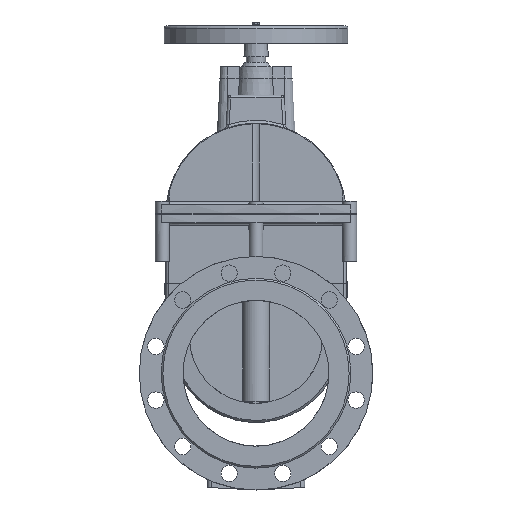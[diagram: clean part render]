
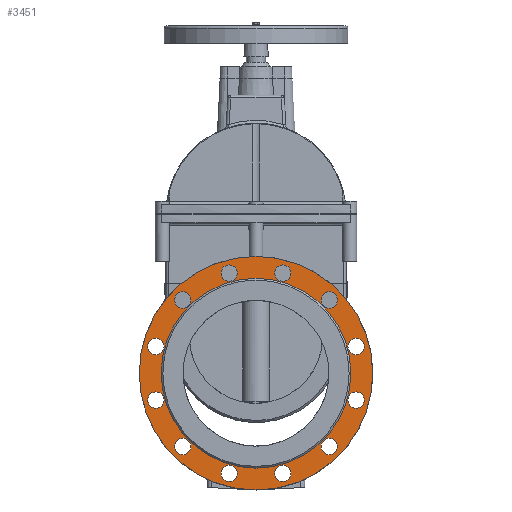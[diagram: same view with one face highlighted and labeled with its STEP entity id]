
A CAD part, left-side view. The second image highlights one B-rep face of the part: STEP entity #3451.
In plain terms, the highlighted planar face has unit normal (-1, 0, 0).
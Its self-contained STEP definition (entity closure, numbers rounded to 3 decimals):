
#3451=ADVANCED_FACE('',(#8669,#8671,#8673,#8675,#8677,#8679,#8681,#8683,#8685,#8687,
#8689,#8691,#8693,#8695),#8697,.F.);
#8669=FACE_BOUND('',#8670,.T.);
#8670=EDGE_LOOP('',(#18102));
#8671=FACE_BOUND('',#8672,.T.);
#8672=EDGE_LOOP('',(#18103));
#8673=FACE_BOUND('',#8674,.T.);
#8674=EDGE_LOOP('',(#18104));
#8675=FACE_BOUND('',#8676,.T.);
#8676=EDGE_LOOP('',(#18105));
#8677=FACE_BOUND('',#8678,.T.);
#8678=EDGE_LOOP('',(#18106));
#8679=FACE_BOUND('',#8680,.T.);
#8680=EDGE_LOOP('',(#18107));
#8681=FACE_BOUND('',#8682,.T.);
#8682=EDGE_LOOP('',(#18108));
#8683=FACE_BOUND('',#8684,.T.);
#8684=EDGE_LOOP('',(#18109));
#8685=FACE_BOUND('',#8686,.T.);
#8686=EDGE_LOOP('',(#18110));
#8687=FACE_BOUND('',#8688,.T.);
#8688=EDGE_LOOP('',(#18111));
#8689=FACE_BOUND('',#8690,.T.);
#8690=EDGE_LOOP('',(#18112));
#8691=FACE_BOUND('',#8692,.T.);
#8692=EDGE_LOOP('',(#18113));
#8693=FACE_BOUND('',#8694,.T.);
#8694=EDGE_LOOP('',(#18114));
#8695=FACE_BOUND('',#8696,.T.);
#8696=EDGE_LOOP('',(#18115));
#8697=PLANE('',#8698);
#8698=AXIS2_PLACEMENT_3D('',#8699,#8700,#8701);
#8699=CARTESIAN_POINT('',(-222.,0.,0.));
#8700=DIRECTION('',(1.,0.,0.));
#8701=DIRECTION('',(0.,1.,0.));
#18102=ORIENTED_EDGE('',*,*,#20849,.F.);
#18103=ORIENTED_EDGE('',*,*,#20869,.T.);
#18104=ORIENTED_EDGE('',*,*,#20868,.T.);
#18105=ORIENTED_EDGE('',*,*,#20867,.T.);
#18106=ORIENTED_EDGE('',*,*,#20866,.T.);
#18107=ORIENTED_EDGE('',*,*,#20865,.T.);
#18108=ORIENTED_EDGE('',*,*,#20864,.T.);
#18109=ORIENTED_EDGE('',*,*,#20863,.T.);
#18110=ORIENTED_EDGE('',*,*,#20862,.T.);
#18111=ORIENTED_EDGE('',*,*,#20861,.T.);
#18112=ORIENTED_EDGE('',*,*,#20860,.T.);
#18113=ORIENTED_EDGE('',*,*,#20859,.T.);
#18114=ORIENTED_EDGE('',*,*,#20991,.F.);
#18115=ORIENTED_EDGE('',*,*,#20858,.T.);
#20849=EDGE_CURVE('',#23590,#23590,#23591,.T.);
#20858=EDGE_CURVE('',#23602,#23602,#23603,.T.);
#20859=EDGE_CURVE('',#23604,#23604,#23605,.T.);
#20860=EDGE_CURVE('',#23606,#23606,#23607,.T.);
#20861=EDGE_CURVE('',#23608,#23608,#23609,.T.);
#20862=EDGE_CURVE('',#23610,#23610,#23611,.T.);
#20863=EDGE_CURVE('',#23612,#23612,#23613,.T.);
#20864=EDGE_CURVE('',#23614,#23614,#23615,.T.);
#20865=EDGE_CURVE('',#23616,#23616,#23617,.T.);
#20866=EDGE_CURVE('',#23618,#23618,#23619,.T.);
#20867=EDGE_CURVE('',#23620,#23620,#23621,.T.);
#20868=EDGE_CURVE('',#23622,#23622,#23623,.T.);
#20869=EDGE_CURVE('',#23624,#23624,#23625,.T.);
#20991=EDGE_CURVE('',#23814,#23814,#23815,.T.);
#23590=VERTEX_POINT('',#32469);
#23591=CIRCLE('',#32470,200.);
#23602=VERTEX_POINT('',#32504);
#23603=CIRCLE('',#32505,14.);
#23604=VERTEX_POINT('',#32509);
#23605=CIRCLE('',#32510,14.);
#23606=VERTEX_POINT('',#32514);
#23607=CIRCLE('',#32515,14.);
#23608=VERTEX_POINT('',#32519);
#23609=CIRCLE('',#32520,14.);
#23610=VERTEX_POINT('',#32524);
#23611=CIRCLE('',#32525,14.);
#23612=VERTEX_POINT('',#32529);
#23613=CIRCLE('',#32530,14.);
#23614=VERTEX_POINT('',#32534);
#23615=CIRCLE('',#32535,14.);
#23616=VERTEX_POINT('',#32539);
#23617=CIRCLE('',#32540,14.);
#23618=VERTEX_POINT('',#32544);
#23619=CIRCLE('',#32545,14.);
#23620=VERTEX_POINT('',#32549);
#23621=CIRCLE('',#32550,14.);
#23622=VERTEX_POINT('',#32554);
#23623=CIRCLE('',#32555,14.);
#23624=VERTEX_POINT('',#32559);
#23625=CIRCLE('',#32560,14.);
#23814=VERTEX_POINT('',#33162);
#23815=CIRCLE('',#33163,162.5);
#32469=CARTESIAN_POINT('',(-222.,200.,0.));
#32470=AXIS2_PLACEMENT_3D('',#32471,#32472,#32473);
#32471=CARTESIAN_POINT('',(-222.,0.,0.));
#32472=DIRECTION('',(1.,0.,0.));
#32473=DIRECTION('',(0.,1.,0.));
#32504=CARTESIAN_POINT('',(-222.,185.452,45.94));
#32505=AXIS2_PLACEMENT_3D('',#32506,#32507,#32508);
#32506=CARTESIAN_POINT('',(-222.,171.452,45.94));
#32507=DIRECTION('',(1.,0.,0.));
#32508=DIRECTION('',(0.,1.,0.));
#32509=CARTESIAN_POINT('',(-222.,183.576,-52.94));
#32510=AXIS2_PLACEMENT_3D('',#32511,#32512,#32513);
#32511=CARTESIAN_POINT('',(-222.,171.452,-45.94));
#32512=DIRECTION('',(1.,0.,0.));
#32513=DIRECTION('',(0.,0.866,-0.5));
#32514=CARTESIAN_POINT('',(-222.,132.511,-137.636));
#32515=AXIS2_PLACEMENT_3D('',#32516,#32517,#32518);
#32516=CARTESIAN_POINT('',(-222.,125.511,-125.511));
#32517=DIRECTION('',(1.,0.,0.));
#32518=DIRECTION('',(0.,0.5,-0.866));
#32519=CARTESIAN_POINT('',(-222.,45.94,-185.452));
#32520=AXIS2_PLACEMENT_3D('',#32521,#32522,#32523);
#32521=CARTESIAN_POINT('',(-222.,45.94,-171.452));
#32522=DIRECTION('',(1.,0.,0.));
#32523=DIRECTION('',(0.,0.,-1.));
#32524=CARTESIAN_POINT('',(-222.,-52.94,-183.576));
#32525=AXIS2_PLACEMENT_3D('',#32526,#32527,#32528);
#32526=CARTESIAN_POINT('',(-222.,-45.94,-171.452));
#32527=DIRECTION('',(1.,0.,0.));
#32528=DIRECTION('',(0.,-0.5,-0.866));
#32529=CARTESIAN_POINT('',(-222.,-137.636,-132.511));
#32530=AXIS2_PLACEMENT_3D('',#32531,#32532,#32533);
#32531=CARTESIAN_POINT('',(-222.,-125.511,-125.511));
#32532=DIRECTION('',(1.,0.,0.));
#32533=DIRECTION('',(0.,-0.866,-0.5));
#32534=CARTESIAN_POINT('',(-222.,-185.452,-45.94));
#32535=AXIS2_PLACEMENT_3D('',#32536,#32537,#32538);
#32536=CARTESIAN_POINT('',(-222.,-171.452,-45.94));
#32537=DIRECTION('',(1.,0.,0.));
#32538=DIRECTION('',(0.,-1.,0.));
#32539=CARTESIAN_POINT('',(-222.,-183.576,52.94));
#32540=AXIS2_PLACEMENT_3D('',#32541,#32542,#32543);
#32541=CARTESIAN_POINT('',(-222.,-171.452,45.94));
#32542=DIRECTION('',(1.,0.,0.));
#32543=DIRECTION('',(0.,-0.866,0.5));
#32544=CARTESIAN_POINT('',(-222.,-132.511,137.636));
#32545=AXIS2_PLACEMENT_3D('',#32546,#32547,#32548);
#32546=CARTESIAN_POINT('',(-222.,-125.511,125.511));
#32547=DIRECTION('',(1.,0.,0.));
#32548=DIRECTION('',(0.,-0.5,0.866));
#32549=CARTESIAN_POINT('',(-222.,-45.94,185.452));
#32550=AXIS2_PLACEMENT_3D('',#32551,#32552,#32553);
#32551=CARTESIAN_POINT('',(-222.,-45.94,171.452));
#32552=DIRECTION('',(1.,0.,0.));
#32553=DIRECTION('',(0.,0.,1.));
#32554=CARTESIAN_POINT('',(-222.,52.94,183.576));
#32555=AXIS2_PLACEMENT_3D('',#32556,#32557,#32558);
#32556=CARTESIAN_POINT('',(-222.,45.94,171.452));
#32557=DIRECTION('',(1.,0.,0.));
#32558=DIRECTION('',(0.,0.5,0.866));
#32559=CARTESIAN_POINT('',(-222.,137.636,132.511));
#32560=AXIS2_PLACEMENT_3D('',#32561,#32562,#32563);
#32561=CARTESIAN_POINT('',(-222.,125.511,125.511));
#32562=DIRECTION('',(1.,0.,0.));
#32563=DIRECTION('',(0.,0.866,0.5));
#33162=CARTESIAN_POINT('',(-222.,-162.5,0.));
#33163=AXIS2_PLACEMENT_3D('',#33164,#33165,#33166);
#33164=CARTESIAN_POINT('',(-222.,0.,0.));
#33165=DIRECTION('',(-1.,0.,0.));
#33166=DIRECTION('',(0.,-1.,0.));
